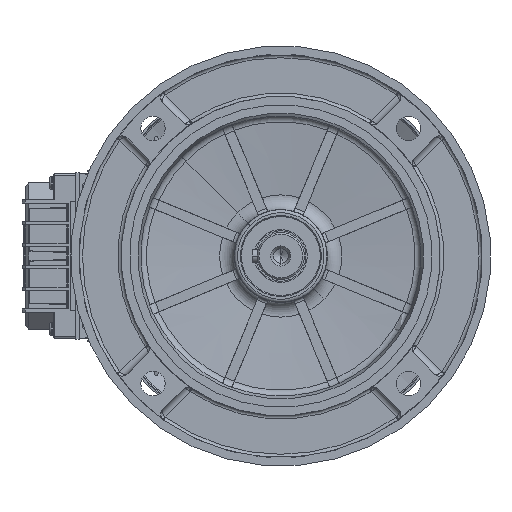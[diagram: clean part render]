
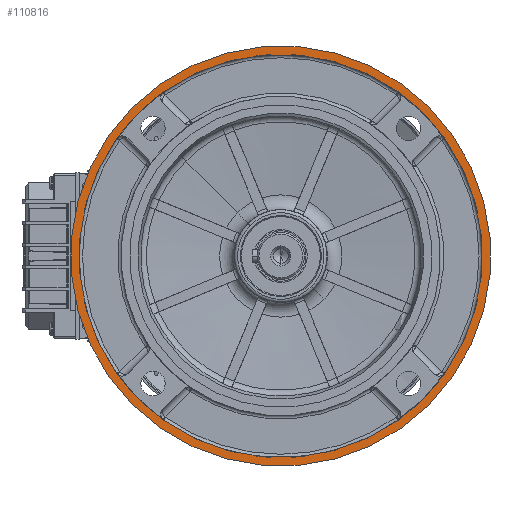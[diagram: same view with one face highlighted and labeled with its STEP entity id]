
A CAD part, left-side view. The second image highlights one B-rep face of the part: STEP entity #110816.
In plain terms, the highlighted planar face has unit normal (-1, 0, 0) as drawn and (0, 1, 0) by its records, which use the part's own axes.
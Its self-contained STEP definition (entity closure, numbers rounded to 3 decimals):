
#2783 = DIRECTION ( 'NONE',  ( 0., 1., 0. ) ) ;
#8263 = PLANE ( 'NONE',  #47867 ) ;
#14496 = AXIS2_PLACEMENT_3D ( 'NONE', #83688, #32020, #92372 ) ;
#23716 = AXIS2_PLACEMENT_3D ( 'NONE', #93776, #42102, #102439 ) ;
#26316 = ORIENTED_EDGE ( 'NONE', *, *, #89775, .T. ) ;
#32020 = DIRECTION ( 'NONE',  ( 0., 1., 0. ) ) ;
#34155 = VERTEX_POINT ( 'NONE', #50348 ) ;
#34160 = EDGE_CURVE ( 'NONE', #79572, #51387, #102287, .T. ) ;
#36698 = DIRECTION ( 'NONE',  ( 0., 1., 0. ) ) ;
#37536 = CARTESIAN_POINT ( 'NONE',  ( 0., 46., -120. ) ) ;
#42102 = DIRECTION ( 'NONE',  ( 0., 1., 0. ) ) ;
#42402 = EDGE_CURVE ( 'NONE', #85156, #34155, #101785, .T. ) ;
#46176 = FACE_BOUND ( 'NONE', #54677, .T. ) ;
#47867 = AXIS2_PLACEMENT_3D ( 'NONE', #103385, #51703, #112033 ) ;
#50348 = CARTESIAN_POINT ( 'NONE',  ( 0., 46., 125. ) ) ;
#51387 = VERTEX_POINT ( 'NONE', #73513 ) ;
#51703 = DIRECTION ( 'NONE',  ( 0., -1., 0. ) ) ;
#53163 = AXIS2_PLACEMENT_3D ( 'NONE', #88356, #36698, #97013 ) ;
#54554 = CARTESIAN_POINT ( 'NONE',  ( 0., 46., 0. ) ) ;
#54677 = EDGE_LOOP ( 'NONE', ( #65604, #80861 ) ) ;
#57295 = CIRCLE ( 'NONE', #60476, 125. ) ;
#60476 = AXIS2_PLACEMENT_3D ( 'NONE', #54554, #2783, #63209 ) ;
#63209 = DIRECTION ( 'NONE',  ( 0., 0., 1. ) ) ;
#63246 = CARTESIAN_POINT ( 'NONE',  ( 0., 46., -125. ) ) ;
#65281 = EDGE_CURVE ( 'NONE', #51387, #79572, #110133, .T. ) ;
#65604 = ORIENTED_EDGE ( 'NONE', *, *, #65281, .F. ) ;
#73073 = ORIENTED_EDGE ( 'NONE', *, *, #42402, .T. ) ;
#73513 = CARTESIAN_POINT ( 'NONE',  ( 0., 46., 120. ) ) ;
#79572 = VERTEX_POINT ( 'NONE', #37536 ) ;
#80861 = ORIENTED_EDGE ( 'NONE', *, *, #34160, .F. ) ;
#83114 = EDGE_LOOP ( 'NONE', ( #26316, #73073 ) ) ;
#83688 = CARTESIAN_POINT ( 'NONE',  ( 0., 46., 0. ) ) ;
#85156 = VERTEX_POINT ( 'NONE', #63246 ) ;
#88356 = CARTESIAN_POINT ( 'NONE',  ( 0., 46., 0. ) ) ;
#89775 = EDGE_CURVE ( 'NONE', #34155, #85156, #57295, .T. ) ;
#92372 = DIRECTION ( 'NONE',  ( 0., 0., 1. ) ) ;
#93776 = CARTESIAN_POINT ( 'NONE',  ( 0., 46., 0. ) ) ;
#94826 = FACE_OUTER_BOUND ( 'NONE', #83114, .T. ) ;
#97013 = DIRECTION ( 'NONE',  ( 0., 0., 1. ) ) ;
#101785 = CIRCLE ( 'NONE', #14496, 125. ) ;
#102287 = CIRCLE ( 'NONE', #23716, 120. ) ;
#102439 = DIRECTION ( 'NONE',  ( 0., 0., 1. ) ) ;
#103385 = CARTESIAN_POINT ( 'NONE',  ( 95., 46., 0. ) ) ;
#110133 = CIRCLE ( 'NONE', #53163, 120. ) ;
#110816 = ADVANCED_FACE ( 'NONE', ( #46176, #94826 ), #8263, .F. ) ;
#112033 = DIRECTION ( 'NONE',  ( 0., 0., -1. ) ) ;
